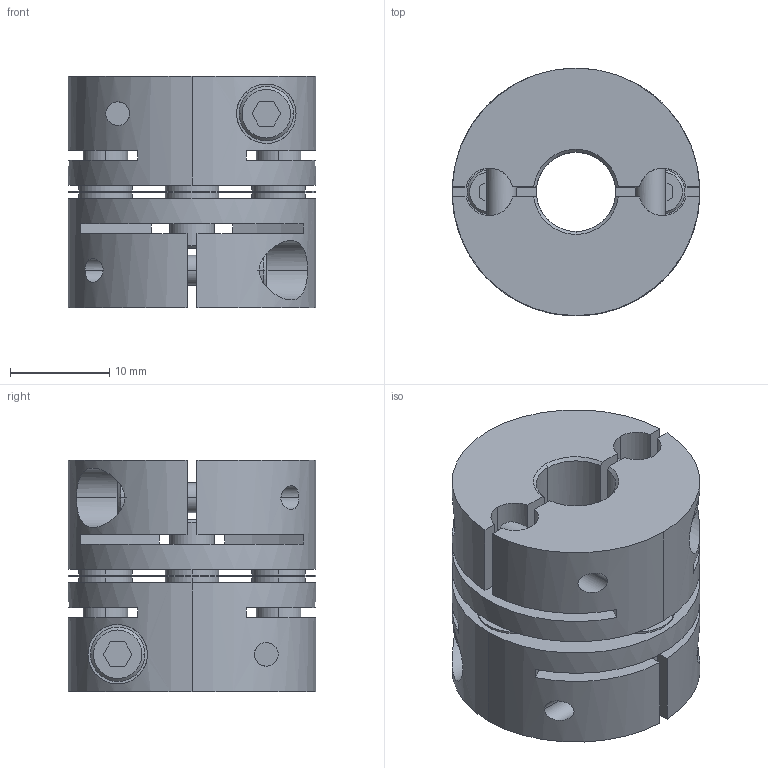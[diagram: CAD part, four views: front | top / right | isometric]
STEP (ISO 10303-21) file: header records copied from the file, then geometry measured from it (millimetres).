
FILE_DESCRIPTION((''),'2;1');
FILE_NAME('LAS-25C-8×9.525.stp','2011-08-10T10:27:54',(''),(''),'AutoCAD STEP 2000i','AutoCAD 2000i',', , ');
FILE_SCHEMA(('CONFIG_CONTROL_DESIGN'));
Length unit declared in the file: millimetre
Products named in the file (5): LAS-25C-6×6; 忣兜1; LA-2502-D06-1; LA-2502-D06; LAS25-ITA
Assembly tree (4 placements, depth 2):
  LAS-25C-6×6
    忣兜1
    LA-2502-D06-1
    LA-2502-D06
    LAS25-ITA
Bounding box: 25 x 25 x 23.4 mm (x, y, z)
Volume: 8228 mm3; surface area: 6813.7 mm2
Topology: 1 solids, 1 shells, 244 faces, 648 edges, 424 vertices
Faces by surface type: plane 112, cylinder 104, cone 28
Entity records: 8499 total; most frequent: CARTESIAN_POINT 2121, DIRECTION 1326, ORIENTED_EDGE 1296, EDGE_CURVE 648, AXIS2_PLACEMENT_3D 485, VERTEX_POINT 424, VECTOR 356, LINE 356
